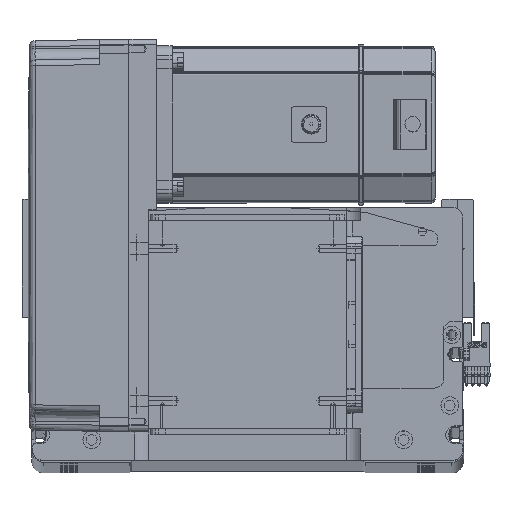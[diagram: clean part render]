
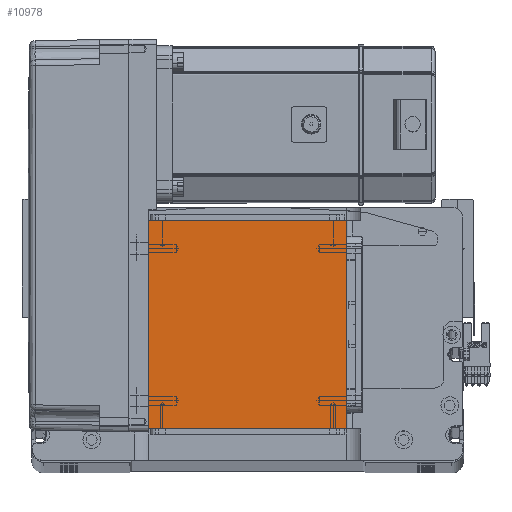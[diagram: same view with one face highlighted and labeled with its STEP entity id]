
A CAD part, top view. The second image highlights one B-rep face of the part: STEP entity #10978.
In plain terms, the highlighted planar face has unit normal (0, 0, 1).
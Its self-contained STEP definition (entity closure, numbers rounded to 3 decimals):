
#551 = CARTESIAN_POINT ( 'NONE',  ( -50.5, 122., 115. ) ) ;
#708 = FACE_OUTER_BOUND ( 'NONE', #48549, .T. ) ;
#2625 = DIRECTION ( 'NONE',  ( 0., 1., 0. ) ) ;
#4726 = LINE ( 'NONE', #551, #11805 ) ;
#6219 = VECTOR ( 'NONE', #2625, 1000. ) ;
#6853 = CARTESIAN_POINT ( 'NONE',  ( -50.5, 16., 115. ) ) ;
#9344 = EDGE_CURVE ( 'NONE', #44863, #11523, #19695, .T. ) ;
#9464 = VECTOR ( 'NONE', #38428, 1000. ) ;
#10978 = ADVANCED_FACE ( 'NONE', ( #708 ), #43711, .T. ) ;
#11518 = DIRECTION ( 'NONE',  ( 1., 0., 0. ) ) ;
#11523 = VERTEX_POINT ( 'NONE', #41432 ) ;
#11725 = CARTESIAN_POINT ( 'NONE',  ( 0., 0., 115. ) ) ;
#11805 = VECTOR ( 'NONE', #24677, 1000. ) ;
#16999 = CARTESIAN_POINT ( 'NONE',  ( -50.5, 16., 115. ) ) ;
#17167 = ORIENTED_EDGE ( 'NONE', *, *, #29910, .T. ) ;
#18269 = AXIS2_PLACEMENT_3D ( 'NONE', #11725, #52692, #11518 ) ;
#19104 = CARTESIAN_POINT ( 'NONE',  ( 50.5, 122., 115. ) ) ;
#19695 = LINE ( 'NONE', #16999, #54600 ) ;
#21763 = CARTESIAN_POINT ( 'NONE',  ( -50.5, 122., 115. ) ) ;
#23775 = EDGE_CURVE ( 'NONE', #11523, #32924, #36800, .T. ) ;
#23800 = CARTESIAN_POINT ( 'NONE',  ( 50.5, 122., 115. ) ) ;
#24167 = ORIENTED_EDGE ( 'NONE', *, *, #35000, .T. ) ;
#24677 = DIRECTION ( 'NONE',  ( -1., 0., 0. ) ) ;
#25351 = CARTESIAN_POINT ( 'NONE',  ( -50.5, 122., 115. ) ) ;
#29910 = EDGE_CURVE ( 'NONE', #30034, #44863, #55693, .T. ) ;
#30034 = VERTEX_POINT ( 'NONE', #21763 ) ;
#32924 = VERTEX_POINT ( 'NONE', #23800 ) ;
#35000 = EDGE_CURVE ( 'NONE', #32924, #30034, #4726, .T. ) ;
#36032 = ORIENTED_EDGE ( 'NONE', *, *, #23775, .T. ) ;
#36800 = LINE ( 'NONE', #19104, #6219 ) ;
#38428 = DIRECTION ( 'NONE',  ( 0., -1., 0. ) ) ;
#41432 = CARTESIAN_POINT ( 'NONE',  ( 50.5, 16., 115. ) ) ;
#43711 = PLANE ( 'NONE',  #18269 ) ;
#44863 = VERTEX_POINT ( 'NONE', #6853 ) ;
#48549 = EDGE_LOOP ( 'NONE', ( #17167, #51330, #36032, #24167 ) ) ;
#51330 = ORIENTED_EDGE ( 'NONE', *, *, #9344, .T. ) ;
#52692 = DIRECTION ( 'NONE',  ( 0., 0., 1. ) ) ;
#53386 = DIRECTION ( 'NONE',  ( 1., 0., 0. ) ) ;
#54600 = VECTOR ( 'NONE', #53386, 1000. ) ;
#55693 = LINE ( 'NONE', #25351, #9464 ) ;
